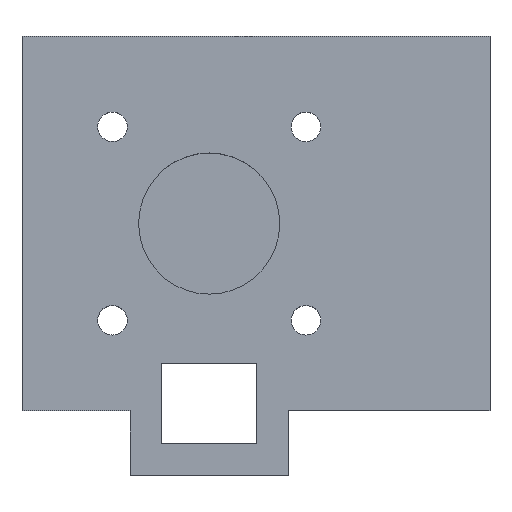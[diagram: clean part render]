
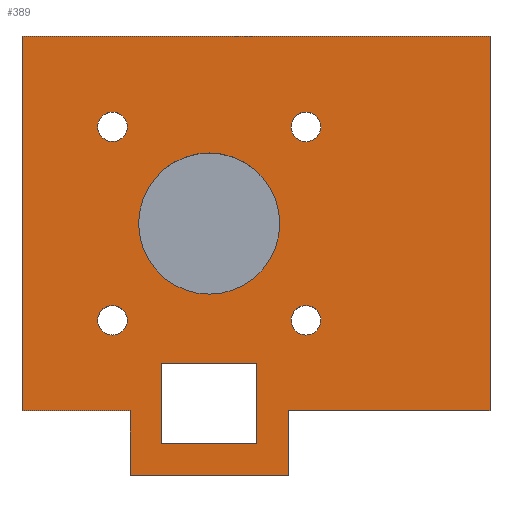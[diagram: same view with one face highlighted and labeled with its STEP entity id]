
A CAD part, top view. The second image highlights one B-rep face of the part: STEP entity #389.
In plain terms, the highlighted planar face has unit normal (0, 0, 1).
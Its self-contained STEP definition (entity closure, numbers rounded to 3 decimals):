
#15=FACE_BOUND('',#75,.T.);
#16=FACE_BOUND('',#76,.T.);
#17=FACE_BOUND('',#77,.T.);
#18=FACE_BOUND('',#78,.T.);
#19=FACE_BOUND('',#79,.T.);
#20=FACE_BOUND('',#80,.T.);
#34=PLANE('',#433);
#54=FACE_OUTER_BOUND('',#74,.T.);
#74=EDGE_LOOP('',(#318,#319,#320,#321,#322,#323,#324,#325));
#75=EDGE_LOOP('',(#326));
#76=EDGE_LOOP('',(#327));
#77=EDGE_LOOP('',(#328));
#78=EDGE_LOOP('',(#329));
#79=EDGE_LOOP('',(#330,#331,#332,#333));
#80=EDGE_LOOP('',(#334));
#96=LINE('',#571,#137);
#100=LINE('',#579,#141);
#103=LINE('',#585,#144);
#106=LINE('',#590,#147);
#112=LINE('',#607,#153);
#115=LINE('',#613,#156);
#117=LINE('',#618,#158);
#119=LINE('',#622,#160);
#120=LINE('',#624,#161);
#121=LINE('',#626,#162);
#122=LINE('',#628,#163);
#123=LINE('',#629,#164);
#137=VECTOR('',#472,10.);
#141=VECTOR('',#478,10.);
#144=VECTOR('',#483,10.);
#147=VECTOR('',#488,10.);
#153=VECTOR('',#504,10.);
#156=VECTOR('',#509,10.);
#158=VECTOR('',#513,10.);
#160=VECTOR('',#517,10.);
#161=VECTOR('',#518,10.);
#162=VECTOR('',#519,10.);
#163=VECTOR('',#520,10.);
#164=VECTOR('',#521,10.);
#175=CIRCLE('',#412,2.05);
#177=CIRCLE('',#415,2.05);
#179=CIRCLE('',#418,2.05);
#181=CIRCLE('',#421,2.05);
#183=CIRCLE('',#428,9.8);
#185=VERTEX_POINT('',#547);
#187=VERTEX_POINT('',#553);
#189=VERTEX_POINT('',#559);
#191=VERTEX_POINT('',#565);
#192=VERTEX_POINT('',#569);
#193=VERTEX_POINT('',#570);
#196=VERTEX_POINT('',#578);
#198=VERTEX_POINT('',#584);
#201=VERTEX_POINT('',#595);
#203=VERTEX_POINT('',#601);
#205=VERTEX_POINT('',#605);
#207=VERTEX_POINT('',#611);
#208=VERTEX_POINT('',#615);
#210=VERTEX_POINT('',#621);
#211=VERTEX_POINT('',#623);
#212=VERTEX_POINT('',#625);
#213=VERTEX_POINT('',#627);
#220=EDGE_CURVE('',#185,#185,#175,.T.);
#223=EDGE_CURVE('',#187,#187,#177,.T.);
#226=EDGE_CURVE('',#189,#189,#179,.T.);
#229=EDGE_CURVE('',#191,#191,#181,.T.);
#230=EDGE_CURVE('',#192,#193,#96,.T.);
#234=EDGE_CURVE('',#193,#196,#100,.T.);
#237=EDGE_CURVE('',#196,#198,#103,.T.);
#240=EDGE_CURVE('',#198,#192,#106,.T.);
#244=EDGE_CURVE('',#201,#201,#183,.T.);
#248=EDGE_CURVE('',#203,#205,#112,.T.);
#251=EDGE_CURVE('',#205,#207,#115,.T.);
#253=EDGE_CURVE('',#207,#208,#117,.T.);
#255=EDGE_CURVE('',#208,#210,#119,.T.);
#256=EDGE_CURVE('',#210,#211,#120,.T.);
#257=EDGE_CURVE('',#211,#212,#121,.T.);
#258=EDGE_CURVE('',#212,#213,#122,.T.);
#259=EDGE_CURVE('',#213,#203,#123,.T.);
#318=ORIENTED_EDGE('',*,*,#255,.T.);
#319=ORIENTED_EDGE('',*,*,#256,.T.);
#320=ORIENTED_EDGE('',*,*,#257,.T.);
#321=ORIENTED_EDGE('',*,*,#258,.T.);
#322=ORIENTED_EDGE('',*,*,#259,.T.);
#323=ORIENTED_EDGE('',*,*,#248,.T.);
#324=ORIENTED_EDGE('',*,*,#251,.T.);
#325=ORIENTED_EDGE('',*,*,#253,.T.);
#326=ORIENTED_EDGE('',*,*,#220,.T.);
#327=ORIENTED_EDGE('',*,*,#223,.T.);
#328=ORIENTED_EDGE('',*,*,#226,.T.);
#329=ORIENTED_EDGE('',*,*,#229,.T.);
#330=ORIENTED_EDGE('',*,*,#237,.T.);
#331=ORIENTED_EDGE('',*,*,#240,.T.);
#332=ORIENTED_EDGE('',*,*,#230,.T.);
#333=ORIENTED_EDGE('',*,*,#234,.T.);
#334=ORIENTED_EDGE('',*,*,#244,.T.);
#389=ADVANCED_FACE('',(#54,#15,#16,#17,#18,#19,#20),#34,.T.);
#412=AXIS2_PLACEMENT_3D('',#549,#447,#448);
#415=AXIS2_PLACEMENT_3D('',#555,#454,#455);
#418=AXIS2_PLACEMENT_3D('',#561,#461,#462);
#421=AXIS2_PLACEMENT_3D('',#567,#468,#469);
#428=AXIS2_PLACEMENT_3D('',#597,#495,#496);
#433=AXIS2_PLACEMENT_3D('',#620,#515,#516);
#447=DIRECTION('center_axis',(0.,0.,-1.));
#448=DIRECTION('ref_axis',(1.,0.,0.));
#454=DIRECTION('center_axis',(0.,0.,-1.));
#455=DIRECTION('ref_axis',(1.,0.,0.));
#461=DIRECTION('center_axis',(0.,0.,-1.));
#462=DIRECTION('ref_axis',(1.,0.,0.));
#468=DIRECTION('center_axis',(0.,0.,-1.));
#469=DIRECTION('ref_axis',(1.,0.,0.));
#472=DIRECTION('',(1.,0.,0.));
#478=DIRECTION('',(0.,-1.,0.));
#483=DIRECTION('',(-1.,0.,0.));
#488=DIRECTION('',(0.,1.,0.));
#495=DIRECTION('center_axis',(0.,0.,-1.));
#496=DIRECTION('ref_axis',(1.,0.,0.));
#504=DIRECTION('',(0.,-1.,0.));
#509=DIRECTION('',(1.,0.,0.));
#513=DIRECTION('',(0.,1.,0.));
#515=DIRECTION('center_axis',(0.,0.,1.));
#516=DIRECTION('ref_axis',(1.,0.,0.));
#517=DIRECTION('',(1.,0.,0.));
#518=DIRECTION('',(0.,1.,0.));
#519=DIRECTION('',(-1.,0.,0.));
#520=DIRECTION('',(0.,-1.,0.));
#521=DIRECTION('',(1.,0.,0.));
#547=CARTESIAN_POINT('',(37.385,21.565,8.));
#549=CARTESIAN_POINT('Origin',(39.435,21.565,8.));
#553=CARTESIAN_POINT('',(10.515,21.565,8.));
#555=CARTESIAN_POINT('Origin',(12.565,21.565,8.));
#559=CARTESIAN_POINT('',(10.515,48.435,8.));
#561=CARTESIAN_POINT('Origin',(12.565,48.435,8.));
#565=CARTESIAN_POINT('',(37.385,48.435,8.));
#567=CARTESIAN_POINT('Origin',(39.435,48.435,8.));
#569=CARTESIAN_POINT('',(19.4,15.6,8.));
#570=CARTESIAN_POINT('',(32.6,15.6,8.));
#571=CARTESIAN_POINT('',(29.25,15.6,8.));
#578=CARTESIAN_POINT('',(32.6,4.4,8.));
#579=CARTESIAN_POINT('',(32.6,22.5,8.));
#584=CARTESIAN_POINT('',(19.4,4.4,8.));
#585=CARTESIAN_POINT('',(29.25,4.4,8.));
#590=CARTESIAN_POINT('',(19.4,22.5,8.));
#595=CARTESIAN_POINT('',(16.2,35.,8.));
#597=CARTESIAN_POINT('Origin',(26.,35.,8.));
#601=CARTESIAN_POINT('',(15.,9.,8.));
#605=CARTESIAN_POINT('',(15.,0.,8.));
#607=CARTESIAN_POINT('',(15.,10.,8.));
#611=CARTESIAN_POINT('',(37.,0.,8.));
#613=CARTESIAN_POINT('',(26.,0.,8.));
#615=CARTESIAN_POINT('',(37.,9.,8.));
#618=CARTESIAN_POINT('',(37.,10.,8.));
#620=CARTESIAN_POINT('Origin',(32.5,35.,8.));
#621=CARTESIAN_POINT('',(65.,9.,8.));
#622=CARTESIAN_POINT('',(32.5,9.,8.));
#623=CARTESIAN_POINT('',(65.,61.,8.));
#624=CARTESIAN_POINT('',(65.,35.,8.));
#625=CARTESIAN_POINT('',(0.,61.,8.));
#626=CARTESIAN_POINT('',(32.5,61.,8.));
#627=CARTESIAN_POINT('',(0.,9.,8.));
#628=CARTESIAN_POINT('',(0.,35.,8.));
#629=CARTESIAN_POINT('',(32.5,9.,8.));
